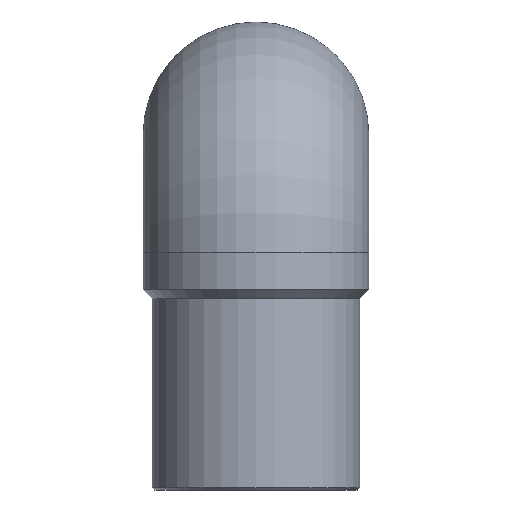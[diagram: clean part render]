
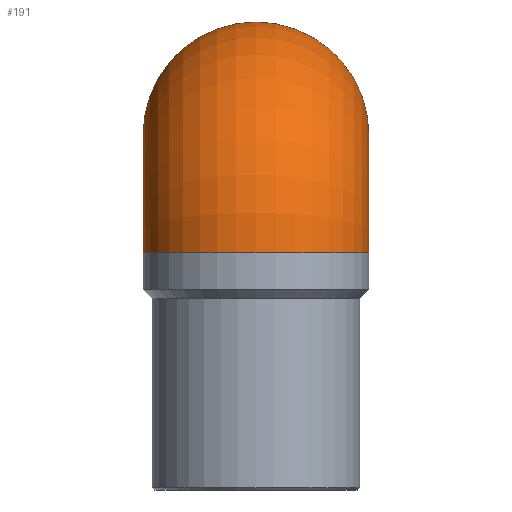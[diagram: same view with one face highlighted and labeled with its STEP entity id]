
A CAD part, left-side view. The second image highlights one B-rep face of the part: STEP entity #191.
In plain terms, the highlighted toroidal (fillet/blend) face has major radius 51 mm and minor radius 49 mm.
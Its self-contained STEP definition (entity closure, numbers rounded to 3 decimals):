
#20=TOROIDAL_SURFACE('',#231,51.,49.);
#59=ORIENTED_EDGE('',*,*,#77,.F.);
#60=ORIENTED_EDGE('',*,*,#79,.T.);
#77=EDGE_CURVE('',#96,#96,#114,.F.);
#79=EDGE_CURVE('',#98,#98,#116,.F.);
#96=VERTEX_POINT('',#312);
#98=VERTEX_POINT('',#318);
#114=CIRCLE('',#217,49.);
#116=CIRCLE('',#221,49.);
#142=EDGE_LOOP('',(#59));
#143=EDGE_LOOP('',(#60));
#169=FACE_BOUND('',#142,.T.);
#170=FACE_BOUND('',#143,.T.);
#191=ADVANCED_FACE('',(#169,#170),#20,.T.);
#217=AXIS2_PLACEMENT_3D('',#311,#256,#257);
#221=AXIS2_PLACEMENT_3D('',#317,#264,#265);
#231=AXIS2_PLACEMENT_3D('',#365,#284,#285);
#256=DIRECTION('',(-1.,0.,0.));
#257=DIRECTION('',(0.,0.,-1.));
#264=DIRECTION('',(0.,0.,-1.));
#265=DIRECTION('',(1.,0.,0.));
#284=DIRECTION('',(0.,1.,0.));
#285=DIRECTION('',(0.,0.,1.));
#311=CARTESIAN_POINT('',(51.,0.,154.));
#312=CARTESIAN_POINT('',(51.,0.,105.));
#317=CARTESIAN_POINT('',(0.,0.,103.));
#318=CARTESIAN_POINT('',(49.,0.,103.));
#365=CARTESIAN_POINT('',(51.,0.,103.));
